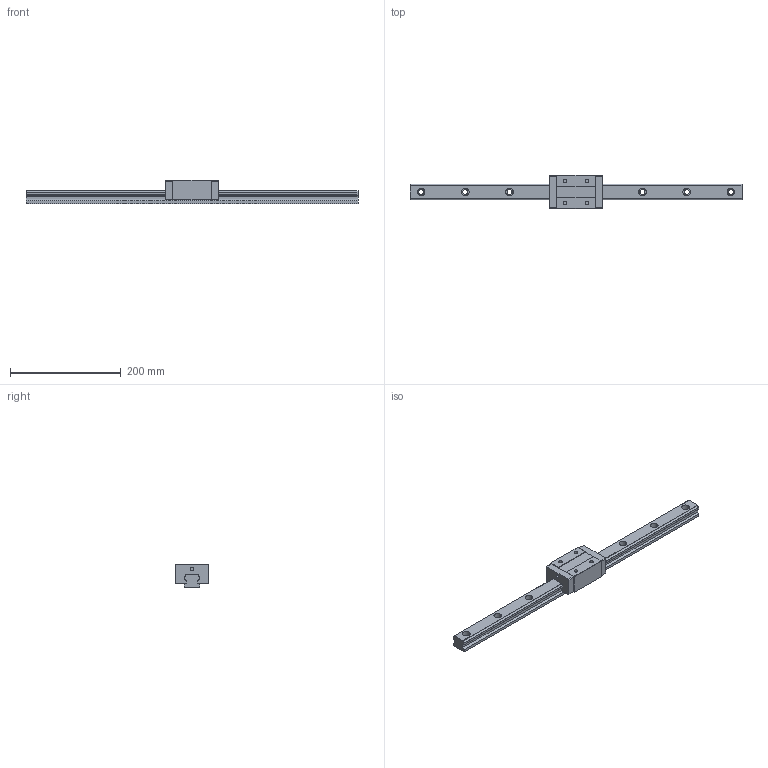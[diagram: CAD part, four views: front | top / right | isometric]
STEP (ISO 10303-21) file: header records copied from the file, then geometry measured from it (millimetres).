
FILE_DESCRIPTION (( 'STEP AP203' ), '1' );
FILE_NAME ('TRS30VN-XNC.STEP', '2024-08-16T07:23:13', ( '' ), ( '' ), 'SwSTEP 2.0', 'SolidWorks 2021', '' );
FILE_SCHEMA (( 'CONFIG_CONTROL_DESIGN' ));
Length unit declared in the file: millimetre
Products named in the file (1): TRS30VN-XNC
Bounding box: 600 x 60 x 42 mm (x, y, z)
Volume: 479577.3 mm3; surface area: 93375.9 mm2
Topology: 1 solids, 1 shells, 164 faces, 448 edges, 296 vertices
Faces by surface type: plane 84, cylinder 80
Entity records: 5345 total; most frequent: DIRECTION 942, CARTESIAN_POINT 909, ORIENTED_EDGE 896, EDGE_CURVE 448, AXIS2_PLACEMENT_3D 329, VERTEX_POINT 296, VECTOR 284, LINE 284
